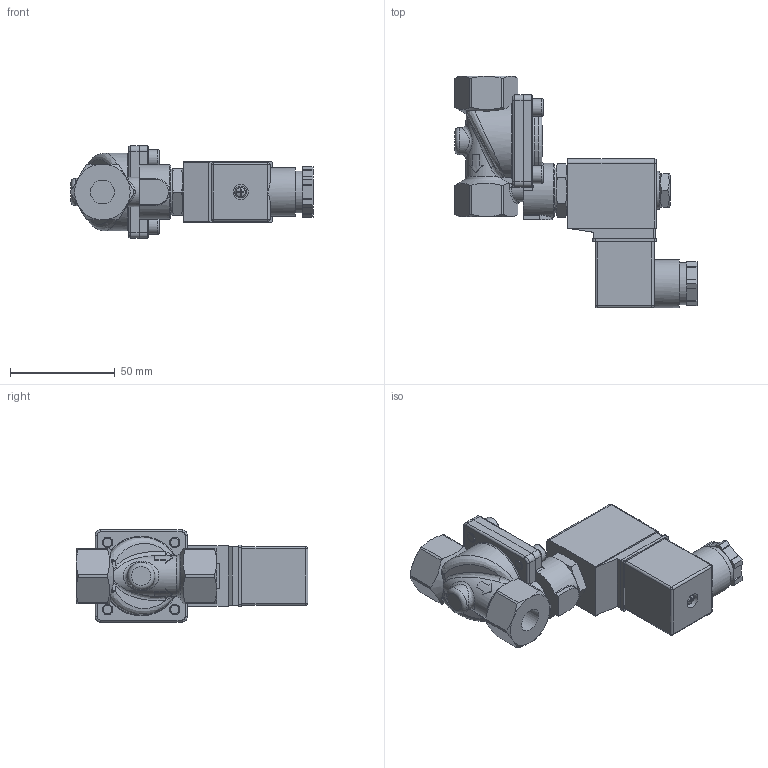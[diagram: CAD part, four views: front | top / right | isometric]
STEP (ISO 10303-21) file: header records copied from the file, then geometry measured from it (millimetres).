
FILE_DESCRIPTION((''),'2;1');
FILE_NAME('H:\Zeichnungen\STEP\MGMG2S12XX43008.stp','2009-10-09T08:55:23',('heidemann'),(''),'Autodesk Inventor 2010','Autodesk Inventor 2010','');
FILE_SCHEMA(('AUTOMOTIVE_DESIGN { 1 0 10303 214 1 1 1 1 }'));
Length unit declared in the file: millimetre
Products named in the file (10): MGMG2S12XX43008; GGG0008_15_0052; TA-N243-NC-30-2; SGXX43-S; DIN EN ISO 7045 H M3 x 30 - 4.8 - H; DIN 128 A10; DIN EN 28 675  (Feingewinde) M10 x 1; DIN 125-1  A Scheibe 41er Spule; DEQ0450_07_0025; DIN 912  (Regelgewinde) - ersetzt durch DIN EN ISO 4762 M5 x 10
Assembly tree (12 placements, depth 2):
  MGMG2S12XX43008
    GGG0008_15_0052
    TA-N243-NC-30-2
    SGXX43-S
    DIN EN ISO 7045 H M3 x 30 - 4.8 - H
    DIN 128 A10
    DIN EN 28 675  (Feingewinde) M10 x 1
    DIN 125-1  A Scheibe 41er Spule
    DEQ0450_07_0025
    DIN 912  (Regelgewinde) - ersetzt durch DIN EN ISO 4762 M5 x 10  x4
Bounding box: 115.45 x 110.5 x 44 mm (x, y, z)
Volume: 146497.7 mm3; surface area: 40794.1 mm2
Topology: 12 solids, 12 shells, 438 faces, 1076 edges, 683 vertices
Faces by surface type: plane 217, cylinder 102, cone 48, bspline 46, torus 20, sphere 5
Full cylindrical faces by diameter (mm): 2.729 x1, 3 x1, 5 x4, 5.5 x4, 7.3 x1, 7.8 x1, 8.5 x4, 9.73 x1, 10 x3, 11 x1, 13 x1, 13.4 x1, 14.4 x1, 14.75 x1, 17.75 x1, 20 x2, 20.5 x1, 21.8 x1, 22 x1, 23 x1, 26 x1
Entity records: 13610 total; most frequent: CARTESIAN_POINT 4484, ORIENTED_EDGE 1820, DIRECTION 1775, EDGE_CURVE 910, AXIS2_PLACEMENT_3D 680, VERTEX_POINT 613, EDGE_LOOP 499, VECTOR 415
